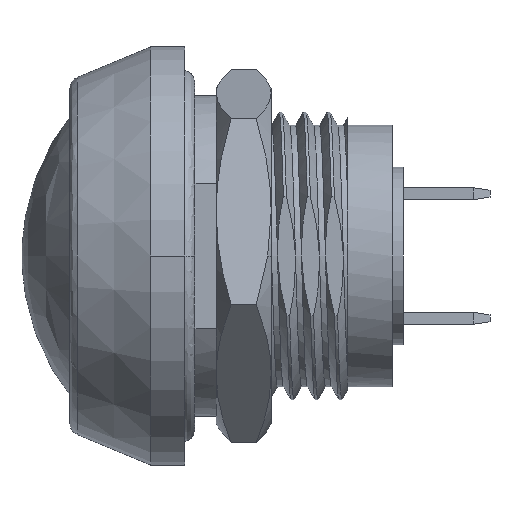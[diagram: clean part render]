
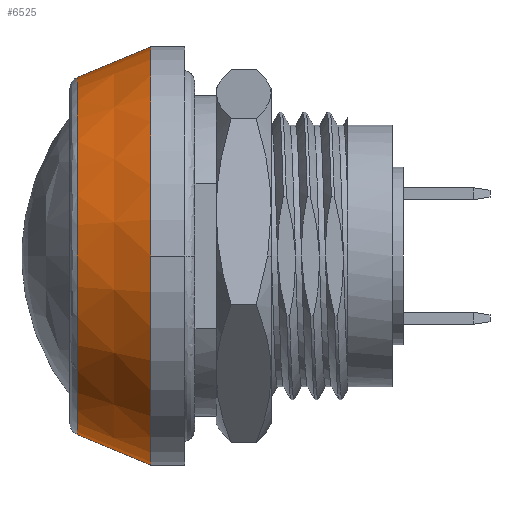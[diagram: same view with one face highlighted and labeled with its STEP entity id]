
A CAD part, left-side view. The second image highlights one B-rep face of the part: STEP entity #6525.
In plain terms, the highlighted conical face has half-angle 22.5 degrees and reference radius 7.453 mm.
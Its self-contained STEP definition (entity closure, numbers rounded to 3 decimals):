
#245 = FACE_OUTER_BOUND ( 'NONE', #3906, .T. ) ;
#525 = DIRECTION ( 'NONE',  ( 0., 0., -1. ) ) ;
#912 = AXIS2_PLACEMENT_3D ( 'NONE', #5858, #1190, #525 ) ;
#946 = AXIS2_PLACEMENT_3D ( 'NONE', #6244, #6186, #2451 ) ;
#1147 = DIRECTION ( 'NONE',  ( 0., -0.924, 0.383 ) ) ;
#1190 = DIRECTION ( 'NONE',  ( 0., -1., 0. ) ) ;
#1786 = ORIENTED_EDGE ( 'NONE', *, *, #2485, .F. ) ;
#1856 = CIRCLE ( 'NONE', #5135, 7.453 ) ;
#2118 = CIRCLE ( 'NONE', #946, 8.725 ) ;
#2451 = DIRECTION ( 'NONE',  ( 0., 0., 1. ) ) ;
#2485 = EDGE_CURVE ( 'NONE', #7481, #6157, #5357, .T. ) ;
#2743 = CARTESIAN_POINT ( 'NONE',  ( 0., 3.345, 8.725 ) ) ;
#3241 = ORIENTED_EDGE ( 'NONE', *, *, #6671, .T. ) ;
#3462 = CARTESIAN_POINT ( 'NONE',  ( 0., 3.345, -8.725 ) ) ;
#3828 = CARTESIAN_POINT ( 'NONE',  ( 0., 6.416, 0. ) ) ;
#3906 = EDGE_LOOP ( 'NONE', ( #1786, #8195, #3241, #6172, #5048 ) ) ;
#4055 = DIRECTION ( 'NONE',  ( 0., -0.924, -0.383 ) ) ;
#4406 = EDGE_CURVE ( 'NONE', #4935, #5354, #2118, .T. ) ;
#4471 = CARTESIAN_POINT ( 'NONE',  ( 0., 6.416, 7.453 ) ) ;
#4473 = DIRECTION ( 'NONE',  ( 0., 0., -1. ) ) ;
#4481 = CARTESIAN_POINT ( 'NONE',  ( -8.725, 3.345, 0. ) ) ;
#4694 = EDGE_CURVE ( 'NONE', #5354, #6157, #7923, .T. ) ;
#4782 = VECTOR ( 'NONE', #4055, 1000. ) ;
#4833 = VERTEX_POINT ( 'NONE', #7472 ) ;
#4935 = VERTEX_POINT ( 'NONE', #3462 ) ;
#5006 = DIRECTION ( 'NONE',  ( 0., 0., 1. ) ) ;
#5048 = ORIENTED_EDGE ( 'NONE', *, *, #4694, .T. ) ;
#5135 = AXIS2_PLACEMENT_3D ( 'NONE', #3828, #8468, #4473 ) ;
#5316 = DIRECTION ( 'NONE',  ( 0., 1., 0. ) ) ;
#5354 = VERTEX_POINT ( 'NONE', #4481 ) ;
#5357 = LINE ( 'NONE', #4471, #6743 ) ;
#5548 = CARTESIAN_POINT ( 'NONE',  ( 0., 3.345, 0. ) ) ;
#5858 = CARTESIAN_POINT ( 'NONE',  ( 0., 6.416, 0. ) ) ;
#5930 = EDGE_CURVE ( 'NONE', #4833, #7481, #1856, .T. ) ;
#6157 = VERTEX_POINT ( 'NONE', #2743 ) ;
#6172 = ORIENTED_EDGE ( 'NONE', *, *, #4406, .T. ) ;
#6186 = DIRECTION ( 'NONE',  ( 0., 1., 0. ) ) ;
#6244 = CARTESIAN_POINT ( 'NONE',  ( 0., 3.345, 0. ) ) ;
#6318 = CARTESIAN_POINT ( 'NONE',  ( 0., 6.416, 7.453 ) ) ;
#6525 = ADVANCED_FACE ( 'NONE', ( #245 ), #8458, .T. ) ;
#6586 = LINE ( 'NONE', #7411, #4782 ) ;
#6621 = AXIS2_PLACEMENT_3D ( 'NONE', #5548, #5316, #5006 ) ;
#6671 = EDGE_CURVE ( 'NONE', #4833, #4935, #6586, .T. ) ;
#6743 = VECTOR ( 'NONE', #1147, 1000. ) ;
#7411 = CARTESIAN_POINT ( 'NONE',  ( 0., 6.416, -7.453 ) ) ;
#7472 = CARTESIAN_POINT ( 'NONE',  ( 0., 6.416, -7.453 ) ) ;
#7481 = VERTEX_POINT ( 'NONE', #6318 ) ;
#7923 = CIRCLE ( 'NONE', #6621, 8.725 ) ;
#8195 = ORIENTED_EDGE ( 'NONE', *, *, #5930, .F. ) ;
#8458 = CONICAL_SURFACE ( 'NONE', #912, 7.453, 0.393 ) ;
#8468 = DIRECTION ( 'NONE',  ( 0., 1., 0. ) ) ;
